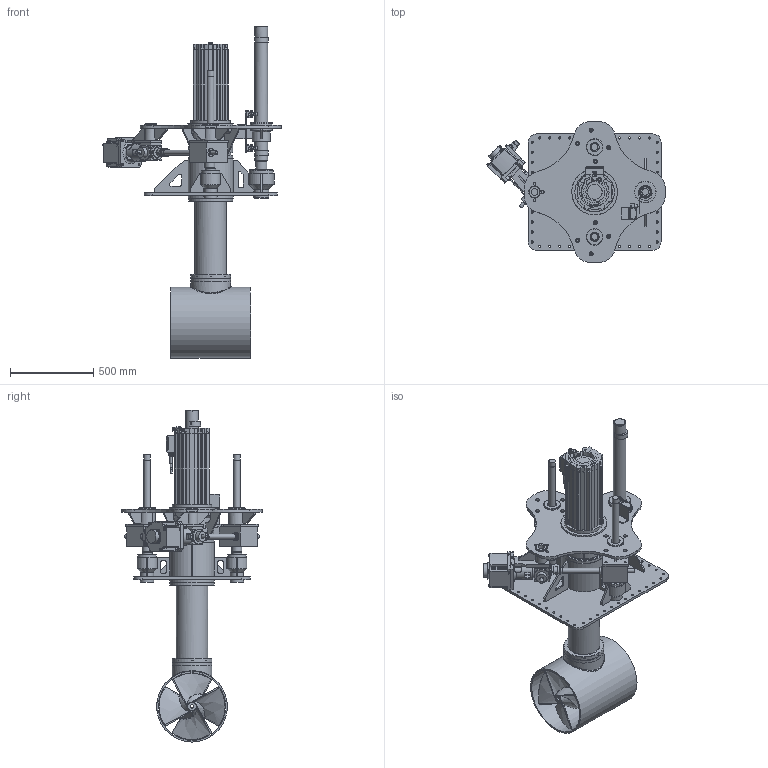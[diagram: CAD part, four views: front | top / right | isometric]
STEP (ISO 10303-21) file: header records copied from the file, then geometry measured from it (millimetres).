
FILE_DESCRIPTION(/* description */ (''),/* implementation_level */ '2;1');
FILE_NAME(/* name */ 'Q:\THRUSTERS\THRUSTER SALES & SUPPORT DOCS\THRUSTER Sales\E-V\E-0400-V\E-0400-V-DEPLOYED.stp',/* time_stamp */ '2021-03-03T09:36:25+00:00',/* author */ ('Barney.Webborn'),/* organization */ (''),/* preprocessor_version */ 'ST-DEVELOPER v17.2',/* originating_system */ 'Autodesk Inventor 2019',/* authorisation */ '');
FILE_SCHEMA (('AUTOMOTIVE_DESIGN { 1 0 10303 214 3 1 1 }'));
Length unit declared in the file: millimetre
Products named in the file (1): E-0400-V_Shrinkwrap_1
Bounding box: 1073.69 x 849.72 x 1997.81 mm (x, y, z)
Volume: 74348422 mm3; surface area: 9111647.2 mm2
Topology: 13 solids, 21 shells, 2741 faces, 7394 edges, 4912 vertices
Faces by surface type: plane 1418, cylinder 961, cone 195, bspline 84, torus 75, sphere 8
Full cylindrical faces by diameter (mm): 1.143 x17, 3 x6, 5.5 x4, 5.6 x4, 5.9 x8, 6 x4, 7 x8, 7.2 x2, 7.6 x8, 8 x10, 8.5 x4, 9.2 x4, 9.398 x3, 11.938 x3, 12 x1, 12.066 x3, 12.4 x18, 12.5 x8, 13 x82, 13.5 x4, 14.097 x3, 14.098 x3, 14.95 x2, 14.986 x3, 15.25 x2, 15.3 x1, 15.4 x8, 16 x11, 16.51 x3, 17 x2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
Entity records: 95920 total; most frequent: CARTESIAN_POINT 21811, DIRECTION 14997, ORIENTED_EDGE 14714, EDGE_CURVE 7357, AXIS2_PLACEMENT_3D 5535, VERTEX_POINT 4912, LINE 3927, VECTOR 3927
